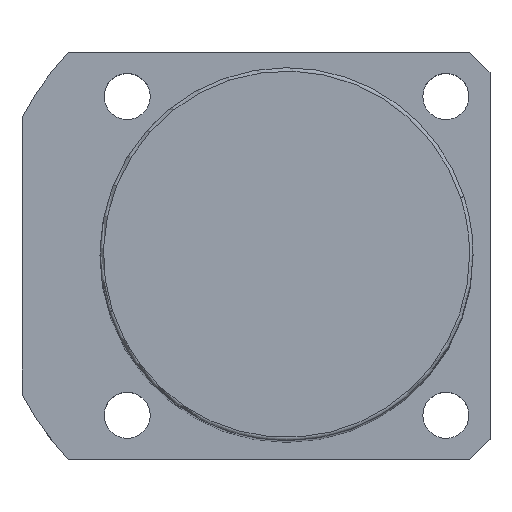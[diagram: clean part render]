
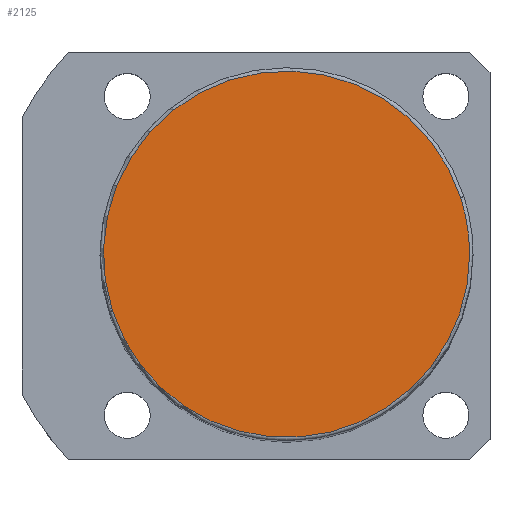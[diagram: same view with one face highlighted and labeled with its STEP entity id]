
A CAD part, top view. The second image highlights one B-rep face of the part: STEP entity #2125.
In plain terms, the highlighted planar face has unit normal (0, 0, 1).
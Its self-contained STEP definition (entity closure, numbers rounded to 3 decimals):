
#2091=CARTESIAN_POINT('',(27.0,0.0,151.0));
#2092=VERTEX_POINT('',#2091);
#2093=CARTESIAN_POINT('',(25.679,8.343,151.0));
#2094=VERTEX_POINT('',#2093);
#2095=CARTESIAN_POINT('',(0.0,0.0,151.0));
#2096=DIRECTION('',(0.0,0.0,1.0));
#2097=DIRECTION('',(1.0,0.0,0.0));
#2098=AXIS2_PLACEMENT_3D('',#2095,#2096,#2097);
#2099=CIRCLE('',#2098,27.0);
#2100=EDGE_CURVE('no 2159',#2092,#2094,#2099,.T.);
#2101=ORIENTED_EDGE('',*,*,#2100,.T.);
#2102=CARTESIAN_POINT('',(-25.679,-8.343,151.0));
#2103=VERTEX_POINT('',#2102);
#2104=CARTESIAN_POINT('',(0.0,0.0,151.0));
#2105=DIRECTION('',(0.0,0.0,1.0));
#2106=DIRECTION('',(1.0,0.0,0.0));
#2107=AXIS2_PLACEMENT_3D('',#2104,#2105,#2106);
#2108=CIRCLE('',#2107,27.0);
#2109=EDGE_CURVE('no 2165',#2094,#2103,#2108,.T.);
#2110=ORIENTED_EDGE('',*,*,#2109,.T.);
#2111=CARTESIAN_POINT('',(0.0,0.0,151.0));
#2112=DIRECTION('',(0.0,0.0,1.0));
#2113=DIRECTION('',(1.0,0.0,0.0));
#2114=AXIS2_PLACEMENT_3D('',#2111,#2112,#2113);
#2115=CIRCLE('',#2114,27.0);
#2116=EDGE_CURVE('no 2169',#2103,#2092,#2115,.T.);
#2117=ORIENTED_EDGE('',*,*,#2116,.T.);
#2118=EDGE_LOOP('',(#2101,#2110,#2117));
#2119=FACE_OUTER_BOUND('',#2118,.T.);
#2120=CARTESIAN_POINT('',(0.0,0.0,151.0));
#2121=DIRECTION('',(0.0,0.0,1.0));
#2122=DIRECTION('',(1.0,0.0,0.0));
#2123=AXIS2_PLACEMENT_3D('',#2120,#2121,#2122);
#2124=PLANE('',#2123);
#2125=ADVANCED_FACE('no 2150',(#2119),#2124,.T.);
